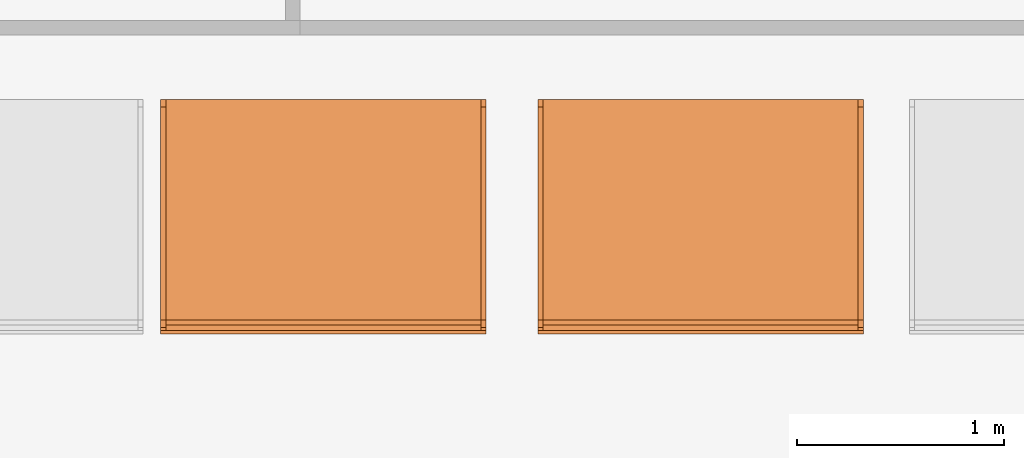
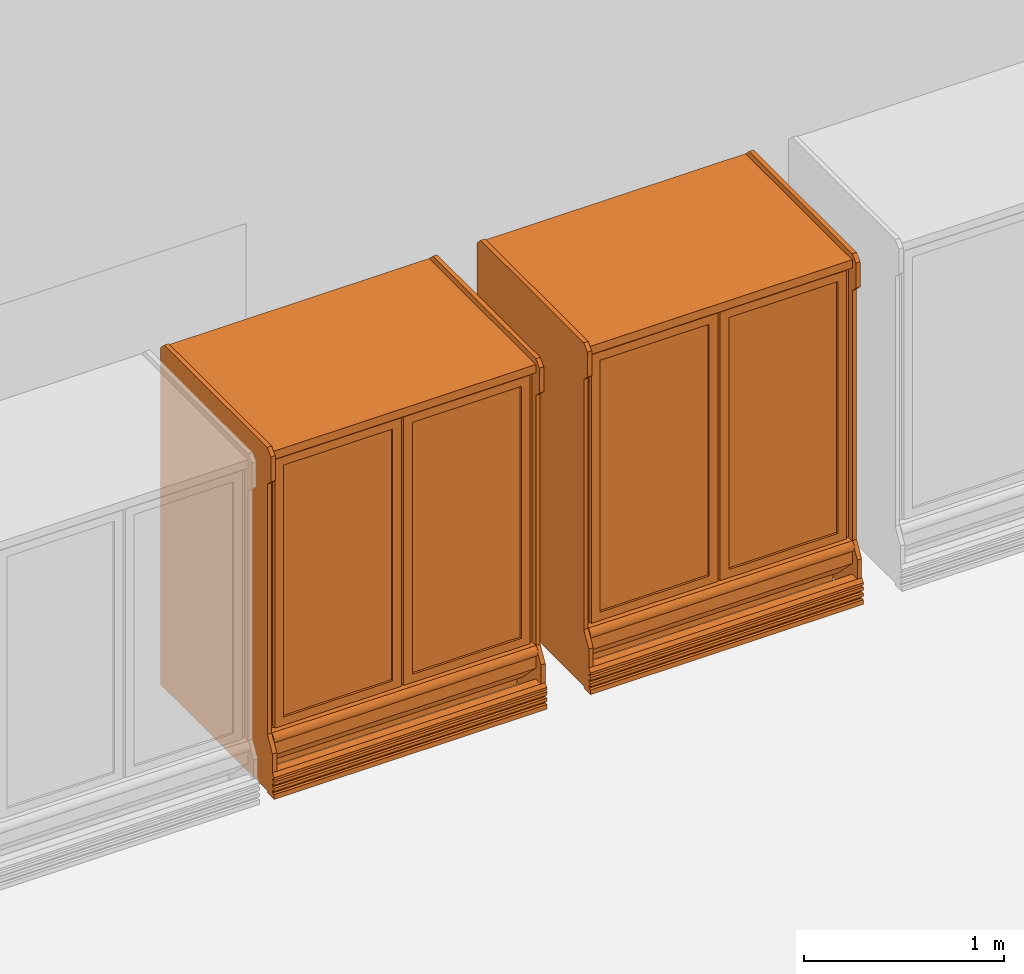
# One storey, part 6 of 11: 2 proxies.
"""IFC2X3 building model written with IfcOpenShell, lengths in metres."""

from ifc_helpers import new_model, entity, si_unit, converted_unit, derived_unit, direction, frame, frame_2d, origin, origin_2d_with_axis, place, context, subcontext, project, spatial, polyline, circle_curve, parameter, trimmed, segment, composite_curve, rectangle, outline, extrude, source, transform, mapped, material, material_list, type_object, type_shapes, element, save


model = new_model("IFC2X3")

# Units and contexts
model_context = context("Model", 3, precision=1e-05, world=origin(), true_north=direction((6.12303176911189e-17, 1.0)))
body_context = subcontext(model_context, "Body", "Model", "MODEL_VIEW")
ifc_project = project(units=[si_unit("LENGTHUNIT", "METRE"), si_unit("AREAUNIT", "SQUARE_METRE"), si_unit("VOLUMEUNIT", "CUBIC_METRE"), converted_unit("PLANEANGLEUNIT", "DEGREE", entity("IfcRatioMeasure", 0.0174532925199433), si_unit("PLANEANGLEUNIT", "RADIAN"), dimensions=[0, 0, 0, 0, 0, 0, 0]), si_unit("MASSUNIT", "GRAM", prefix="KILO"), derived_unit("MASSDENSITYUNIT", [(si_unit("MASSUNIT", "GRAM", prefix="KILO"), 1), (si_unit("LENGTHUNIT", "METRE"), -3)]), si_unit("TIMEUNIT", "SECOND"), si_unit("FREQUENCYUNIT", "HERTZ"), si_unit("THERMODYNAMICTEMPERATUREUNIT", "DEGREE_CELSIUS"), derived_unit("THERMALTRANSMITTANCEUNIT", [(si_unit("MASSUNIT", "GRAM", prefix="KILO"), 1), (si_unit("THERMODYNAMICTEMPERATUREUNIT", "KELVIN"), -1), (si_unit("TIMEUNIT", "SECOND"), -3)]), derived_unit("VOLUMETRICFLOWRATEUNIT", [(si_unit("LENGTHUNIT", "METRE"), 3), (si_unit("TIMEUNIT", "SECOND"), -1)]), si_unit("ELECTRICCURRENTUNIT", "AMPERE"), si_unit("ELECTRICVOLTAGEUNIT", "VOLT"), si_unit("POWERUNIT", "WATT"), si_unit("FORCEUNIT", "NEWTON", prefix="KILO"), si_unit("ILLUMINANCEUNIT", "LUX"), si_unit("LUMINOUSFLUXUNIT", "LUMEN"), si_unit("LUMINOUSINTENSITYUNIT", "CANDELA"), derived_unit("USERDEFINED", [(si_unit("MASSUNIT", "GRAM", prefix="KILO"), -1), (si_unit("LENGTHUNIT", "METRE"), -2), (si_unit("TIMEUNIT", "SECOND"), 3), (si_unit("LUMINOUSFLUXUNIT", "LUMEN"), 1)]), derived_unit("LINEARVELOCITYUNIT", [(si_unit("LENGTHUNIT", "METRE"), 1), (si_unit("TIMEUNIT", "SECOND"), -1)]), si_unit("PRESSUREUNIT", "PASCAL"), derived_unit("USERDEFINED", [(si_unit("LENGTHUNIT", "METRE"), -2), (si_unit("MASSUNIT", "GRAM", prefix="KILO"), 1), (si_unit("TIMEUNIT", "SECOND"), -2)])], contexts=[model_context])

# Site, building, storey
site_placement = place(None, origin())
site = spatial("IfcSite", under=ifc_project, at=site_placement, Name="Default", CompositionType="ELEMENT")
building_placement = place(site_placement, origin())
building = spatial("IfcBuilding", under=site, at=building_placement, CompositionType="ELEMENT")
storey_placement = place(building_placement, frame((0.0, 0.0, 1.49233632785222)))
storey = spatial("IfcBuildingStorey", under=building, at=storey_placement, Name="Niveau 0", CompositionType="ELEMENT", Elevation=1.49233632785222)

# Proxies
ifc_material_1 = material(Name="Verre")
ifc_material_2 = material(Name="Métal - Chrome")
ifc_material_3 = material(Name="Peinture - Blanc")
ifc_material_4 = material(Name="Plastique - Gris foncé")
ifc_material_list_1 = material_list([ifc_material_1, ifc_material_2, ifc_material_3, ifc_material_4])
ifc_material_list_2 = material_list([ifc_material_1, ifc_material_2, ifc_material_3, ifc_material_4])
building_element_proxy_type = type_object("IfcBuildingElementProxyType", Name="1575mm", PredefinedType="NOTDEFINED", material=ifc_material_list_2)
shared_shape = source(origin(), body_context, "Body", "SweptSolid", [
    extrude(rectangle(XDim=0.00634999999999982, YDim=0.628649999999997, at=frame_2d((-2.16840434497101e-18, 0.0), x_axis=(1.0, 0.0))), frame((-0.985043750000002, 0.0285749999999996, 0.4191), z_axis=(0.0, 0.0, 1.0), x_axis=(0.0, 1.0, 0.0)), (0.0, 0.0, 1.0), 1.53670000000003),
    extrude(outline(polyline([(-0.365124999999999, -0.819150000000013), (0.365124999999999, -0.819150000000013), (0.365124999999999, 0.819150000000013), (-0.365124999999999, 0.819150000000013), (-0.365124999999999, -0.819150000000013)]), holes=[polyline([(-0.314324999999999, -0.768350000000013), (-0.314324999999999, 0.768350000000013), (0.314324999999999, 0.768350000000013), (0.314324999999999, -0.768350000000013), (-0.314324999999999, -0.768350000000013)])]), frame((-0.985043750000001, 0.0126999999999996, 1.18745000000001), z_axis=(0.0, 1.0, 0.0), x_axis=(1.0, 0.0, 0.0)), (0.0, 0.0, 1.0), 0.0253999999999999),
    extrude(rectangle(XDim=0.00634999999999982, YDim=0.628649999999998, at=frame_2d((-2.16840434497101e-18, -1.38777878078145e-16), x_axis=(1.0, 0.0))), frame((-1.72799375, 0.0285749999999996, 0.4191), z_axis=(0.0, 0.0, 1.0), x_axis=(0.0, 1.0, 0.0)), (0.0, 0.0, 1.0), 1.5367),
    extrude(outline(polyline([(-0.819150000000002, -0.365124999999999), (0.819150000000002, -0.365124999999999), (0.819150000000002, 0.365124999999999), (-0.819150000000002, 0.365124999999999), (-0.819150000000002, -0.365124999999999)]), holes=[polyline([(-0.768350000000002, -0.314324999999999), (-0.768350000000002, 0.314324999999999), (0.768350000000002, 0.314324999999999), (0.768350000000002, -0.314324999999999), (-0.768350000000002, -0.314324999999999)])]), frame((-1.72799375, 0.0126999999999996, 1.18745), z_axis=(0.0, 1.0, 0.0), x_axis=(0.0, 0.0, -1.0)), (0.0, 0.0, 1.0), 0.0253999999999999),
    extrude(outline(polyline([(-0.88265, -0.762), (0.88265, -0.762), (0.88265, 0.762), (-0.88265, 0.762), (-0.88265, -0.762)]), holes=[polyline([(-0.806450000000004, 0.0190499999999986), (-0.806450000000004, 0.7239), (0.80645, 0.7239), (0.80645, 0.0190499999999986), (-0.806450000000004, 0.0190499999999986)]), polyline([(-0.806450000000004, -0.7239), (-0.806450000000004, -0.0190500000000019), (0.80645, -0.0190500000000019), (0.80645, -0.7239), (-0.806450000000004, -0.7239)])]), frame((-1.35651875, 0.0380999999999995, 1.18745), z_axis=(0.0, 1.0, 0.0), x_axis=(0.0, 0.0, -1.0)), (0.0, 0.0, 1.0), 0.0381),
    extrude(outline(composite_curve([segment(trimmed(circle_curve(frame_2d((-0.0095885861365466, 0.0), x_axis=(1.0, 0.0)), 0.0327139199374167), [parameter(287.043889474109)], [parameter(72.9561105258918)], True, "PARAMETER"), True, "CONTINUOUS"), segment(polyline([(0.0, 0.0312771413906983), (0.0, -0.0312771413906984)]), True, "CONTINUOUS")], self_intersect=False)), frame((-2.11851875, 0.0, 0.324322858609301), z_axis=(1.0, 0.0, 0.0), x_axis=(0.0, -1.0, 0.0)), (0.0, 0.0, 1.0), 1.524),
    extrude(outline(polyline([(-0.058322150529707, -0.045007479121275), (-0.0317412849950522, -0.045007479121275), (-0.0206789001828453, -0.0360006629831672), (-0.0312750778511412, -0.0229861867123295), (-0.0214265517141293, -0.0149676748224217), (-0.0108303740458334, -0.0279821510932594), (0.00394241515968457, -0.0159543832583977), (-0.00665376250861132, -0.00293990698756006), (0.00811902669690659, 0.0090878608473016), (0.0187152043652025, -0.00392661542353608), (0.0334879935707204, 0.00810115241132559), (0.0228918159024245, 0.0211156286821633), (0.0376646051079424, 0.0331433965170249), (0.0482607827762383, 0.0201289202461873), (0.0704563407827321, 0.0382001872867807), (0.0277861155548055, 0.0906087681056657), (-0.0903961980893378, -0.00561337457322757), (-0.058322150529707, -0.045007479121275)])), frame((-2.14391875, -0.052721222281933, 0.0787558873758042), z_axis=(1.0, 0.0, 0.0), x_axis=(0.0, -0.631378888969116, -0.775474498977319)), (0.0, 0.0, 1.0), 1.5748),
    extrude(outline(polyline([(-0.78162589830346, -1.01392662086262), (0.249253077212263, -1.01392662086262), (0.285174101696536, -0.978005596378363), (0.285174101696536, -0.825605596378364), (0.249253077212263, -0.789684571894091), (0.249253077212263, 0.736494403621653), (0.300053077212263, 0.824482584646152), (0.300053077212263, 0.939694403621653), (0.249253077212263, 0.939694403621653), (0.249253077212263, 1.07939440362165), (-0.817546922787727, 1.07939440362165), (-0.817546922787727, -0.978005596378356), (-0.78162589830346, -1.01392662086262)])), frame((-0.594518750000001, 0.249253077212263, 1.09209440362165), z_axis=(1.0, 0.0, 0.0), x_axis=(0.0, -1.0, 0.0)), (0.0, 0.0, 1.0), 0.0254000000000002),
    extrude(outline(polyline([(-0.78162589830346, -1.01392662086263), (0.249253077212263, -1.01392662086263), (0.285174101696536, -0.97800559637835), (0.285174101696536, -0.825605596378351), (0.249253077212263, -0.789684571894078), (0.249253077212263, 0.736494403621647), (0.300053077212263, 0.824482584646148), (0.300053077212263, 0.939694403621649), (0.249253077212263, 0.939694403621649), (0.249253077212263, 1.07939440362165), (-0.817546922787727, 1.07939440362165), (-0.817546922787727, -0.97800559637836), (-0.78162589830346, -1.01392662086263)])), frame((-2.14391875, 0.249253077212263, 1.09209440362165), z_axis=(1.0, 0.0, 0.0), x_axis=(0.0, -1.0, 0.0)), (0.0, 0.0, 1.0), 0.0253999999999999),
    extrude(rectangle(XDim=1.4986, YDim=0.6096, at=origin_2d_with_axis()), frame((-1.35651875, 0.596900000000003, 0.558800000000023)), (0.0, 0.0, 1.0), 0.009525),
    extrude(rectangle(XDim=1.4986, YDim=0.6096, at=origin_2d_with_axis()), frame((-1.35651875, 0.596900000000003, 1.72719999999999)), (0.0, 0.0, 1.0), 0.009525),
    extrude(rectangle(XDim=1.4986, YDim=0.6096, at=origin_2d_with_axis()), frame((-1.35651875, 0.596900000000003, 1.4351)), (0.0, 0.0, 1.0), 0.009525),
    extrude(rectangle(XDim=1.4986, YDim=0.6096, at=frame_2d((0.0, -5.55111512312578e-17), x_axis=(1.0, 0.0))), frame((-1.35651875, 0.596900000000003, 1.14300000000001)), (0.0, 0.0, 1.0), 0.009525),
    extrude(rectangle(XDim=1.4986, YDim=0.6096, at=frame_2d((0.0, -5.55111512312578e-17), x_axis=(1.0, 0.0))), frame((-1.35651875, 0.596900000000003, 0.850900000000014)), (0.0, 0.0, 1.0), 0.009525),
    extrude(outline(polyline([(-0.902820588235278, -0.198746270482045), (-0.902820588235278, -0.211446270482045), (0.82437941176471, -0.211446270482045), (0.82437941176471, -0.198746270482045), (0.608479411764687, -0.198746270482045), (0.608479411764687, -0.0923601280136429), (0.589429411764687, -0.0733101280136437), (0.589429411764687, 0.300798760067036), (0.570379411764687, 0.309681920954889), (0.570379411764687, -0.198746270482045), (0.316379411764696, -0.198746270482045), (0.316379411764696, -0.0876283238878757), (0.297329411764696, -0.0685783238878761), (0.297329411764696, 0.300798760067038), (0.278279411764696, 0.309681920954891), (0.278279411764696, -0.198746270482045), (0.0242794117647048, -0.198746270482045), (0.0242794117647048, -0.082896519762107), (0.0052294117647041, -0.0638465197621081), (0.0052294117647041, 0.389270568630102), (-0.0138205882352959, 0.398153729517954), (-0.0138205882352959, -0.198746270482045), (-0.267820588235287, -0.198746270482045), (-0.267820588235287, -0.0876283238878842), (-0.286870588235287, -0.0685783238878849), (-0.286870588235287, 0.389270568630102), (-0.305920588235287, 0.398153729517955), (-0.305920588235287, -0.198746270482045), (-0.559920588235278, -0.198746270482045), (-0.559920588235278, -0.0828965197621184), (-0.578970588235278, -0.0638465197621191), (-0.578970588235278, 0.385453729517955), (-0.598020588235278, 0.398153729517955), (-0.598020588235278, -0.198746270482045), (-0.902820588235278, -0.198746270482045)])), frame((-1.36247815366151, 0.702953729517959, 1.12917941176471), z_axis=(-1.0, 0.0, 0.0), x_axis=(0.0, 0.0, -1.0)), (0.0, 0.0, -1.0), 0.0119188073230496),
    extrude(outline(polyline([(-0.902820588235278, -0.198746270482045), (-0.902820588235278, -0.211446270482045), (0.82437941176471, -0.211446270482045), (0.82437941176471, -0.198746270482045), (0.608479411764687, -0.198746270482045), (0.608479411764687, -0.0923601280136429), (0.589429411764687, -0.0733101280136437), (0.589429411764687, 0.300798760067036), (0.570379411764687, 0.309681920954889), (0.570379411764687, -0.198746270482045), (0.316379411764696, -0.198746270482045), (0.316379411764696, -0.0876283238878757), (0.297329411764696, -0.0685783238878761), (0.297329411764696, 0.300798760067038), (0.278279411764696, 0.309681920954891), (0.278279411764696, -0.198746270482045), (0.0242794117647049, -0.198746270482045), (0.0242794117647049, -0.082896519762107), (0.00522941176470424, -0.0638465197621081), (0.00522941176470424, 0.389270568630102), (-0.0138205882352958, 0.398153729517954), (-0.0138205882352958, -0.198746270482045), (-0.267820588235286, -0.198746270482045), (-0.267820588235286, -0.0876283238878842), (-0.286870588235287, -0.0685783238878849), (-0.286870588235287, 0.389270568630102), (-0.305920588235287, 0.398153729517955), (-0.305920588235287, -0.198746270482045), (-0.559920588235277, -0.198746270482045), (-0.559920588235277, -0.0828965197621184), (-0.578970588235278, -0.0638465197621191), (-0.578970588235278, 0.385453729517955), (-0.598020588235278, 0.398153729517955), (-0.598020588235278, -0.198746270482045), (-0.902820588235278, -0.198746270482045)])), frame((-0.619918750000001, 0.702953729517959, 1.12917941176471), z_axis=(-1.0, 0.0, 0.0), x_axis=(0.0, 0.0, -1.0)), (0.0, 0.0, -1.0), 0.0127000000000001),
    extrude(outline(polyline([(-0.902820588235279, -0.198746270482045), (-0.902820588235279, -0.211446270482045), (0.824379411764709, -0.211446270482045), (0.824379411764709, -0.198746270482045), (0.608479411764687, -0.198746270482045), (0.608479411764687, -0.0923601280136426), (0.589429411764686, -0.0733101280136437), (0.589429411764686, 0.300798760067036), (0.570379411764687, 0.309681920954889), (0.570379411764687, -0.198746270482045), (0.316379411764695, -0.198746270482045), (0.316379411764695, -0.0876283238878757), (0.297329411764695, -0.0685783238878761), (0.297329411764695, 0.300798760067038), (0.278279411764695, 0.309681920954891), (0.278279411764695, -0.198746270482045), (0.0242794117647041, -0.198746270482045), (0.0242794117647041, -0.082896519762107), (0.00522941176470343, -0.0638465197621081), (0.00522941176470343, 0.389270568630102), (-0.0138205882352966, 0.398153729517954), (-0.0138205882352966, -0.198746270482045), (-0.267820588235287, -0.198746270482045), (-0.267820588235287, -0.0876283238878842), (-0.286870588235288, -0.0685783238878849), (-0.286870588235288, 0.389270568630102), (-0.305920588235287, 0.398153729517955), (-0.305920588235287, -0.198746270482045), (-0.559920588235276, -0.198746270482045), (-0.559920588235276, -0.0828965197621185), (-0.578970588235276, -0.0638465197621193), (-0.578970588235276, 0.385453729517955), (-0.598020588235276, 0.398153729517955), (-0.598020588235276, -0.198746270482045), (-0.902820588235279, -0.198746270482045)])), frame((-2.10581875, 0.702953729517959, 1.12917941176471), z_axis=(-1.0, 0.0, 0.0), x_axis=(0.0, 0.0, -1.0)), (0.0, 0.0, -1.0), 0.0127000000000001),
    extrude(outline(polyline([(-0.99836485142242, -0.344904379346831), (-0.947564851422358, -0.344904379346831), (-0.947564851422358, -0.192504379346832), (-0.960264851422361, -0.192504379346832), (-0.960264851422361, 0.569495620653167), (0.766935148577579, 0.569495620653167), (0.766935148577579, -0.306804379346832), (0.716135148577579, -0.306804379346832), (0.716135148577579, -0.344904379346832), (0.855178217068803, -0.344904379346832), (0.995535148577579, -0.204547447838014), (0.995535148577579, 0.721895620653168), (-0.99836485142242, 0.721895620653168), (-0.99836485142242, -0.344904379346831)])), frame((-2.11851875, 0.344904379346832, 1.07173514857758), z_axis=(1.0, 0.0, 0.0), x_axis=(0.0, 0.0, -1.0)), (0.0, 0.0, 1.0), 1.524),
    extrude(rectangle(XDim=1.524, YDim=0.85725, at=frame_2d((1.66533453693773e-16, 0.0), x_axis=(1.0, 0.0))), frame((-1.35651875, 0.619125, 0.0), z_axis=(0.0, 0.0, 1.0), x_axis=(-1.0, 0.0, 0.0)), (0.0, 0.0, 1.0), 0.0762),
])
type_shapes(building_element_proxy_type, [shared_shape])
proxy_1_placement = place(storey_placement, frame((8.03442320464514, -1.06468697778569, 0.0)))
element("IfcBuildingElementProxy", 1, at=proxy_1_placement, inside=storey, type_object=building_element_proxy_type, material=ifc_material_list_1, Name="Congélateur - Vertical deux portes:1575mm", ObjectType="Congélateur - Vertical deux portes:1575mm", context=body_context, shape_type="MappedRepresentation", body=[
    mapped(shared_shape, transform((0.0, 0.0, 0.0), scale=1.0)),
])
ifc_material_list_3 = material_list([ifc_material_1, ifc_material_2, ifc_material_3, ifc_material_4])
proxy_2_placement = place(storey_placement, frame((6.20835448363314, -1.06468697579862, 0.0)))
element("IfcBuildingElementProxy", 2, at=proxy_2_placement, inside=storey, type_object=building_element_proxy_type, material=ifc_material_list_3, Name="Congélateur - Vertical deux portes:1575mm", ObjectType="Congélateur - Vertical deux portes:1575mm", context=body_context, shape_type="MappedRepresentation", body=[
    mapped(shared_shape, transform((0.0, 0.0, 0.0), scale=1.0)),
])

save(model, "model.ifc")
